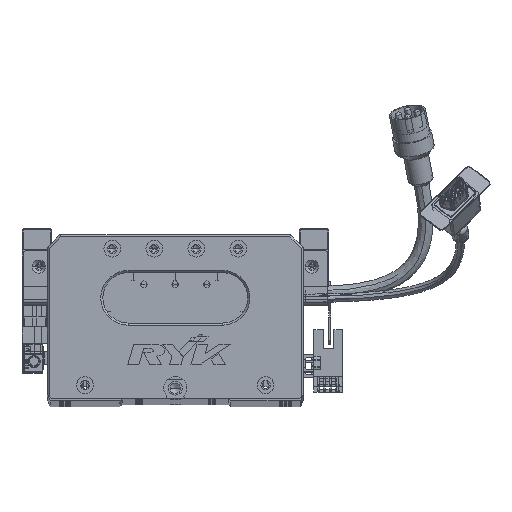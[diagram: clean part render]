
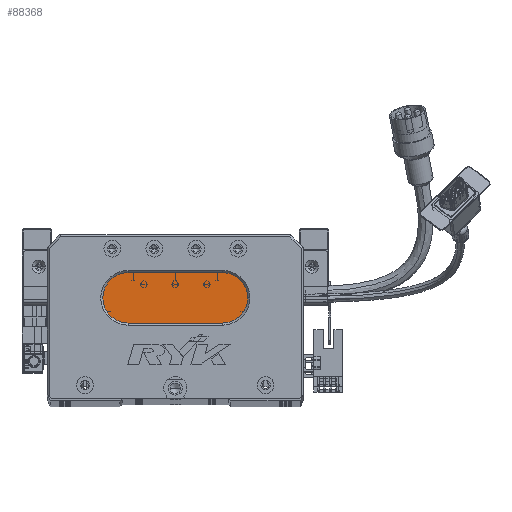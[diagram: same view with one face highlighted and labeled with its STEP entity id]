
A CAD part, top view. The second image highlights one B-rep face of the part: STEP entity #88368.
In plain terms, the highlighted planar face has unit normal (0, 0, 1) as drawn and (0, 0, -1) by its records, which use the part's own axes.
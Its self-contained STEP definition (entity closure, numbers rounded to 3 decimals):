
#1508 = LINE ( 'NONE', #7583, #77700 ) ;
#4027 = AXIS2_PLACEMENT_3D ( 'NONE', #25304, #94104, #26610 ) ;
#7583 = CARTESIAN_POINT ( 'NONE',  ( 83.5, 60., 13. ) ) ;
#15247 = DIRECTION ( 'NONE',  ( 0., 0., -1. ) ) ;
#16502 = DIRECTION ( 'NONE',  ( 1., 0., 0. ) ) ;
#17204 = CARTESIAN_POINT ( 'NONE',  ( 83.5, 48., 13. ) ) ;
#21143 = CIRCLE ( 'NONE', #73922, 12. ) ;
#21867 = EDGE_CURVE ( 'NONE', #30695, #26880, #21143, .T. ) ;
#23821 = CARTESIAN_POINT ( 'NONE',  ( 38.5, 60., 13. ) ) ;
#24441 = VERTEX_POINT ( 'NONE', #86304 ) ;
#24752 = ORIENTED_EDGE ( 'NONE', *, *, #21867, .T. ) ;
#25304 = CARTESIAN_POINT ( 'NONE',  ( 83.5, 48., 13. ) ) ;
#26610 = DIRECTION ( 'NONE',  ( -1., 0., 0. ) ) ;
#26880 = VERTEX_POINT ( 'NONE', #23821 ) ;
#27167 = CARTESIAN_POINT ( 'NONE',  ( 26.5, 48., 13. ) ) ;
#29938 = DIRECTION ( 'NONE',  ( -1., 0., 0. ) ) ;
#30695 = VERTEX_POINT ( 'NONE', #27167 ) ;
#36045 = AXIS2_PLACEMENT_3D ( 'NONE', #17204, #93374, #55800 ) ;
#36775 = CARTESIAN_POINT ( 'NONE',  ( 38.5, 48., 13. ) ) ;
#38379 = EDGE_CURVE ( 'NONE', #26880, #48180, #1508, .T. ) ;
#39773 = ORIENTED_EDGE ( 'NONE', *, *, #70672, .T. ) ;
#40800 = PLANE ( 'NONE',  #36045 ) ;
#45846 = EDGE_CURVE ( 'NONE', #24441, #30695, #75755, .T. ) ;
#45927 = CARTESIAN_POINT ( 'NONE',  ( 83.5, 60., 13. ) ) ;
#48180 = VERTEX_POINT ( 'NONE', #45927 ) ;
#52378 = DIRECTION ( 'NONE',  ( -1., 0., 0. ) ) ;
#53209 = EDGE_CURVE ( 'NONE', #76285, #24441, #69280, .T. ) ;
#54118 = AXIS2_PLACEMENT_3D ( 'NONE', #36775, #66394, #52378 ) ;
#55800 = DIRECTION ( 'NONE',  ( -1., 0., 0. ) ) ;
#57973 = ORIENTED_EDGE ( 'NONE', *, *, #53209, .T. ) ;
#65147 = CARTESIAN_POINT ( 'NONE',  ( 83.5, 36., 13. ) ) ;
#66394 = DIRECTION ( 'NONE',  ( 0., 0., -1. ) ) ;
#67837 = DIRECTION ( 'NONE',  ( -1., 0., 0. ) ) ;
#69280 = LINE ( 'NONE', #75517, #82398 ) ;
#70672 = EDGE_CURVE ( 'NONE', #48180, #76285, #71306, .T. ) ;
#71306 = CIRCLE ( 'NONE', #4027, 12. ) ;
#72532 = EDGE_LOOP ( 'NONE', ( #39773, #57973, #82410, #24752, #87855 ) ) ;
#73922 = AXIS2_PLACEMENT_3D ( 'NONE', #76155, #15247, #67837 ) ;
#75517 = CARTESIAN_POINT ( 'NONE',  ( 83.5, 36., 13. ) ) ;
#75755 = CIRCLE ( 'NONE', #54118, 12. ) ;
#76155 = CARTESIAN_POINT ( 'NONE',  ( 38.5, 48., 13. ) ) ;
#76285 = VERTEX_POINT ( 'NONE', #65147 ) ;
#77242 = FACE_OUTER_BOUND ( 'NONE', #72532, .T. ) ;
#77700 = VECTOR ( 'NONE', #16502, 1000. ) ;
#82398 = VECTOR ( 'NONE', #29938, 1000. ) ;
#82410 = ORIENTED_EDGE ( 'NONE', *, *, #45846, .T. ) ;
#86304 = CARTESIAN_POINT ( 'NONE',  ( 38.5, 36., 13. ) ) ;
#87855 = ORIENTED_EDGE ( 'NONE', *, *, #38379, .T. ) ;
#88368 = ADVANCED_FACE ( 'NONE', ( #77242 ), #40800, .T. ) ;
#93374 = DIRECTION ( 'NONE',  ( 0., 0., -1. ) ) ;
#94104 = DIRECTION ( 'NONE',  ( 0., 0., -1. ) ) ;
